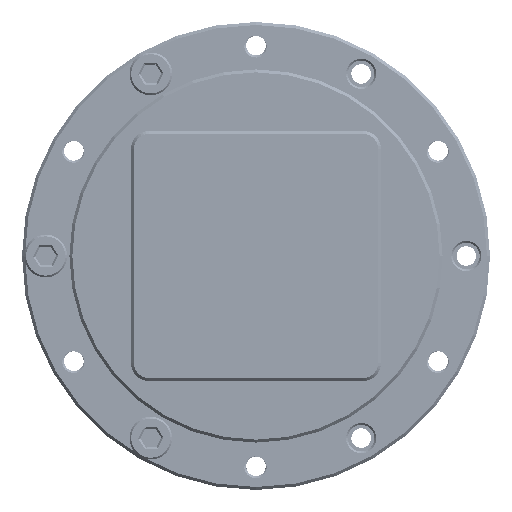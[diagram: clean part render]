
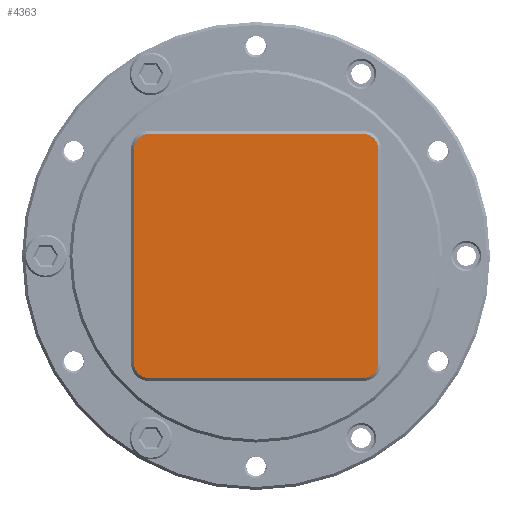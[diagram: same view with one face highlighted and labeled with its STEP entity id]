
A CAD part, front view. The second image highlights one B-rep face of the part: STEP entity #4363.
In plain terms, the highlighted planar face has unit normal (0, -1, 0).
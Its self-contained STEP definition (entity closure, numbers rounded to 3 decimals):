
#1713=FACE_OUTER_BOUND('',#7207,.T.);
#2427=LINE('',#61383,#3327);
#2428=LINE('',#61388,#3328);
#2429=LINE('',#61392,#3329);
#2430=LINE('',#61396,#3330);
#3327=VECTOR('',#20457,1.);
#3328=VECTOR('',#20460,1.);
#3329=VECTOR('',#20463,1.);
#3330=VECTOR('',#20466,1.);
#4363=ADVANCED_FACE('',(#1713),#5342,.T.);
#5342=PLANE('',#18224);
#7207=EDGE_LOOP('',(#9310,#9311,#9312,#9313,#9314,#9315,#9316,#9317));
#9310=ORIENTED_EDGE('',*,*,#15217,.T.);
#9311=ORIENTED_EDGE('',*,*,#15218,.T.);
#9312=ORIENTED_EDGE('',*,*,#15219,.T.);
#9313=ORIENTED_EDGE('',*,*,#15220,.T.);
#9314=ORIENTED_EDGE('',*,*,#15221,.T.);
#9315=ORIENTED_EDGE('',*,*,#15222,.T.);
#9316=ORIENTED_EDGE('',*,*,#15223,.T.);
#9317=ORIENTED_EDGE('',*,*,#15224,.T.);
#13447=VERTEX_POINT('',#61384);
#13448=VERTEX_POINT('',#61385);
#13449=VERTEX_POINT('',#61387);
#13450=VERTEX_POINT('',#61389);
#13451=VERTEX_POINT('',#61391);
#13452=VERTEX_POINT('',#61393);
#13453=VERTEX_POINT('',#61395);
#13454=VERTEX_POINT('',#61397);
#15217=EDGE_CURVE('',#13447,#13448,#2427,.T.);
#15218=EDGE_CURVE('',#13448,#13449,#17308,.T.);
#15219=EDGE_CURVE('',#13449,#13450,#2428,.T.);
#15220=EDGE_CURVE('',#13450,#13451,#17309,.T.);
#15221=EDGE_CURVE('',#13451,#13452,#2429,.T.);
#15222=EDGE_CURVE('',#13452,#13453,#17310,.T.);
#15223=EDGE_CURVE('',#13453,#13454,#2430,.T.);
#15224=EDGE_CURVE('',#13454,#13447,#17311,.T.);
#17308=CIRCLE('',#18220,2.5);
#17309=CIRCLE('',#18221,2.5);
#17310=CIRCLE('',#18222,2.5);
#17311=CIRCLE('',#18223,2.5);
#18220=AXIS2_PLACEMENT_3D('',#61386,#20458,#20459);
#18221=AXIS2_PLACEMENT_3D('',#61390,#20461,#20462);
#18222=AXIS2_PLACEMENT_3D('',#61394,#20464,#20465);
#18223=AXIS2_PLACEMENT_3D('',#61398,#20467,#20468);
#18224=AXIS2_PLACEMENT_3D('',#61399,#20469,#20470);
#20457=DIRECTION('',(0.,0.,1.));
#20458=DIRECTION('',(0.,-1.,0.));
#20459=DIRECTION('',(0.,0.,1.));
#20460=DIRECTION('',(-1.,0.,0.));
#20461=DIRECTION('',(0.,-1.,0.));
#20462=DIRECTION('',(0.,0.,1.));
#20463=DIRECTION('',(0.,0.,-1.));
#20464=DIRECTION('',(0.,-1.,0.));
#20465=DIRECTION('',(0.,0.,1.));
#20466=DIRECTION('',(1.,0.,0.));
#20467=DIRECTION('',(0.,-1.,0.));
#20468=DIRECTION('',(0.,0.,1.));
#20469=DIRECTION('',(0.,-1.,0.));
#20470=DIRECTION('',(0.,0.,1.));
#61383=CARTESIAN_POINT('',(20.6,-54.,18.1));
#61384=CARTESIAN_POINT('',(20.6,-54.,-18.1));
#61385=CARTESIAN_POINT('',(20.6,-54.,18.1));
#61386=CARTESIAN_POINT('',(18.1,-54.,18.1));
#61387=CARTESIAN_POINT('',(18.1,-54.,20.6));
#61388=CARTESIAN_POINT('',(-18.1,-54.,20.6));
#61389=CARTESIAN_POINT('',(-18.1,-54.,20.6));
#61390=CARTESIAN_POINT('',(-18.1,-54.,18.1));
#61391=CARTESIAN_POINT('',(-20.6,-54.,18.1));
#61392=CARTESIAN_POINT('',(-20.6,-54.,-18.1));
#61393=CARTESIAN_POINT('',(-20.6,-54.,-18.1));
#61394=CARTESIAN_POINT('',(-18.1,-54.,-18.1));
#61395=CARTESIAN_POINT('',(-18.1,-54.,-20.6));
#61396=CARTESIAN_POINT('',(18.1,-54.,-20.6));
#61397=CARTESIAN_POINT('',(18.1,-54.,-20.6));
#61398=CARTESIAN_POINT('',(18.1,-54.,-18.1));
#61399=CARTESIAN_POINT('',(0.,-54.,0.));
